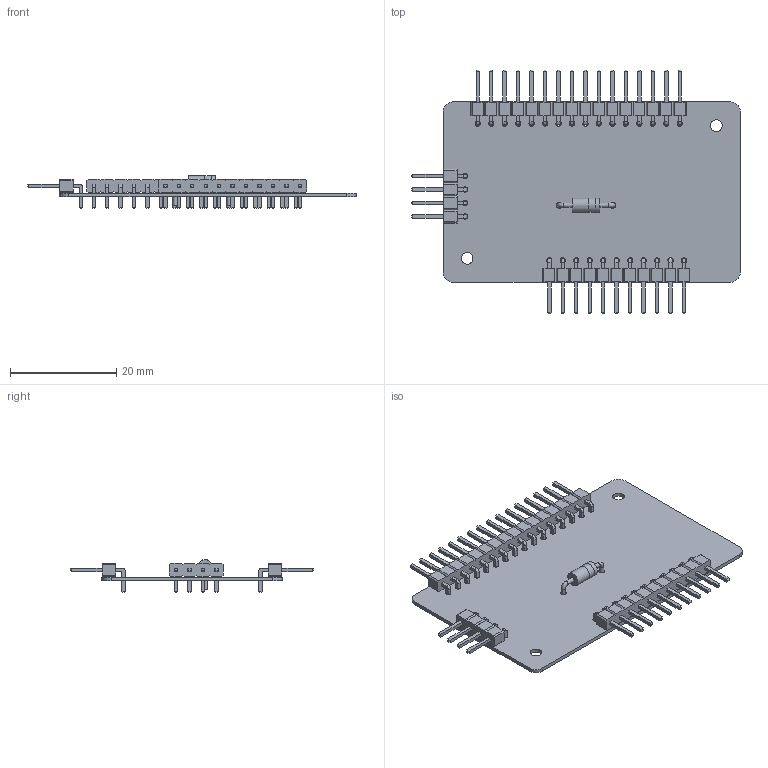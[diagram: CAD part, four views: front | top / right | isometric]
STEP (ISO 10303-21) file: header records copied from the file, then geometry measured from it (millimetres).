
FILE_DESCRIPTION(('KiCad electronic assembly'),'2;1');
FILE_NAME('bb1_wiring_board.step','2026-11-17T21:17:37',('Pcbnew'),( 'Kicad'),'Open CASCADE STEP processor 7.9','KiCad to STEP converter' ,'Unknown');
FILE_SCHEMA(('AUTOMOTIVE_DESIGN { 1 0 10303 214 1 1 1 1 }'));
Length unit declared in the file: millimetre
Products named in the file (10): bb1_wiring_board 1; PinHeader_1x16_P2.54mm_Horizontal; PinHeader_1x16_P254mm_Horizontal; PinHeader_1x11_P2.54mm_Horizontal; PinHeader_1x11_P254mm_Horizontal; PinHeader_1x04_P2.54mm_Horizontal; PinHeader_1x04_P254mm_Horizontal; D_DO-41_SOD81_P10.16mm_Horizontal; bb1_wiring_board_PCB
Assembly tree (9 placements, depth 3):
  bb1_wiring_board 1
    PinHeader_1x16_P2.54mm_Horizontal
      PinHeader_1x16_P254mm_Horizontal
    PinHeader_1x11_P2.54mm_Horizontal
      PinHeader_1x11_P254mm_Horizontal
    PinHeader_1x04_P2.54mm_Horizontal
      PinHeader_1x04_P254mm_Horizontal
    D_DO-41_SOD81_P10.16mm_Horizontal
      D_DO-41_SOD81_P10.16mm_Horizontal
    bb1_wiring_board_PCB
Bounding box: 61.94 x 45.88 x 6.21 mm (x, y, z)
Volume: 2006.1 mm3; surface area: 5794.4 mm2
Topology: 5 solids, 5 shells, 909 faces, 2247 edges, 1414 vertices
Faces by surface type: plane 830, cylinder 77, torus 2
Full cylindrical faces by diameter (mm): 0.8 x4, 1 x31, 1.1 x2, 2.2 x2, 2.7 x2, 2.72 x1
Entity records: 32510 total; most frequent: CARTESIAN_POINT 4580, ORIENTED_EDGE 4494, DIRECTION 4241, EDGE_CURVE 2247, LINE 2091, VECTOR 2091, VERTEX_POINT 1414, AXIS2_PLACEMENT_3D 1075
